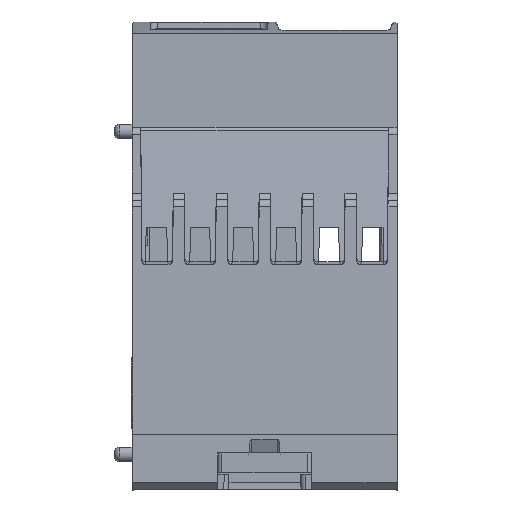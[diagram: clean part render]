
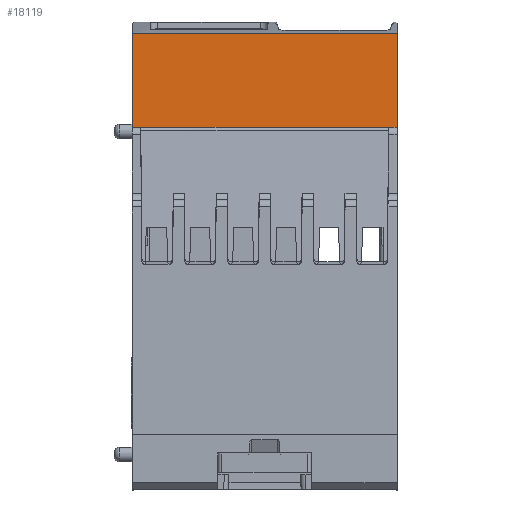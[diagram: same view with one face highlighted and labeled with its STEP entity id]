
A CAD part, front view. The second image highlights one B-rep face of the part: STEP entity #18119.
In plain terms, the highlighted planar face has unit normal (0, -1, 0).
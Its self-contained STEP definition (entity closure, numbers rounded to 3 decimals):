
#944=FACE_OUTER_BOUND('',#1681,.T.);
#1681=EDGE_LOOP('',(#12858,#12859,#12860,#12861,#12862,#12863));
#2444=LINE('',#25644,#4543);
#2518=LINE('',#26277,#4617);
#2628=LINE('',#26543,#4727);
#2645=LINE('',#26602,#4744);
#2646=LINE('',#26603,#4745);
#2647=LINE('',#26604,#4746);
#4543=VECTOR('',#20549,35.8);
#4617=VECTOR('',#20739,12.648);
#4727=VECTOR('',#20937,12.648);
#4744=VECTOR('',#20982,1.3);
#4745=VECTOR('',#20983,33.2);
#4746=VECTOR('',#20984,1.3);
#7099=VERTEX_POINT('',#25641);
#7100=VERTEX_POINT('',#25643);
#7182=VERTEX_POINT('',#26275);
#7222=VERTEX_POINT('',#26366);
#7275=VERTEX_POINT('',#26502);
#7294=VERTEX_POINT('',#26542);
#9388=EDGE_CURVE('',#7099,#7100,#2444,.T.);
#9506=EDGE_CURVE('',#7099,#7182,#2518,.T.);
#9643=EDGE_CURVE('',#7100,#7294,#2628,.T.);
#9673=EDGE_CURVE('',#7222,#7182,#2645,.T.);
#9674=EDGE_CURVE('',#7275,#7222,#2646,.T.);
#9675=EDGE_CURVE('',#7294,#7275,#2647,.T.);
#12858=ORIENTED_EDGE('',*,*,#9388,.F.);
#12859=ORIENTED_EDGE('',*,*,#9506,.T.);
#12860=ORIENTED_EDGE('',*,*,#9673,.F.);
#12861=ORIENTED_EDGE('',*,*,#9674,.F.);
#12862=ORIENTED_EDGE('',*,*,#9675,.F.);
#12863=ORIENTED_EDGE('',*,*,#9643,.F.);
#16939=PLANE('',#19061);
#18119=ADVANCED_FACE('',(#944),#16939,.T.);
#19061=AXIS2_PLACEMENT_3D('',#26601,#20980,#20981);
#20549=DIRECTION('',(1.,0.,0.));
#20739=DIRECTION('',(0.,0.,-1.));
#20937=DIRECTION('',(0.,0.,-1.));
#20980=DIRECTION('center_axis',(0.,-1.,0.));
#20981=DIRECTION('ref_axis',(-1.,0.,0.));
#20982=DIRECTION('',(-1.,0.,0.));
#20983=DIRECTION('',(-1.,0.,0.));
#20984=DIRECTION('',(-1.,0.,0.));
#25641=CARTESIAN_POINT('',(-17.9,-22.5,61.648));
#25643=CARTESIAN_POINT('',(17.9,-22.5,61.648));
#25644=CARTESIAN_POINT('',(-17.9,-22.5,61.648));
#26275=CARTESIAN_POINT('',(-17.9,-22.5,49.));
#26277=CARTESIAN_POINT('',(-17.9,-22.5,61.648));
#26366=CARTESIAN_POINT('',(-16.6,-22.5,49.));
#26502=CARTESIAN_POINT('',(16.6,-22.5,49.));
#26542=CARTESIAN_POINT('',(17.9,-22.5,49.));
#26543=CARTESIAN_POINT('',(17.9,-22.5,61.648));
#26601=CARTESIAN_POINT('Origin',(0.2,-22.5,48.8));
#26602=CARTESIAN_POINT('',(-16.6,-22.5,49.));
#26603=CARTESIAN_POINT('',(16.6,-22.5,49.));
#26604=CARTESIAN_POINT('',(17.9,-22.5,49.));
